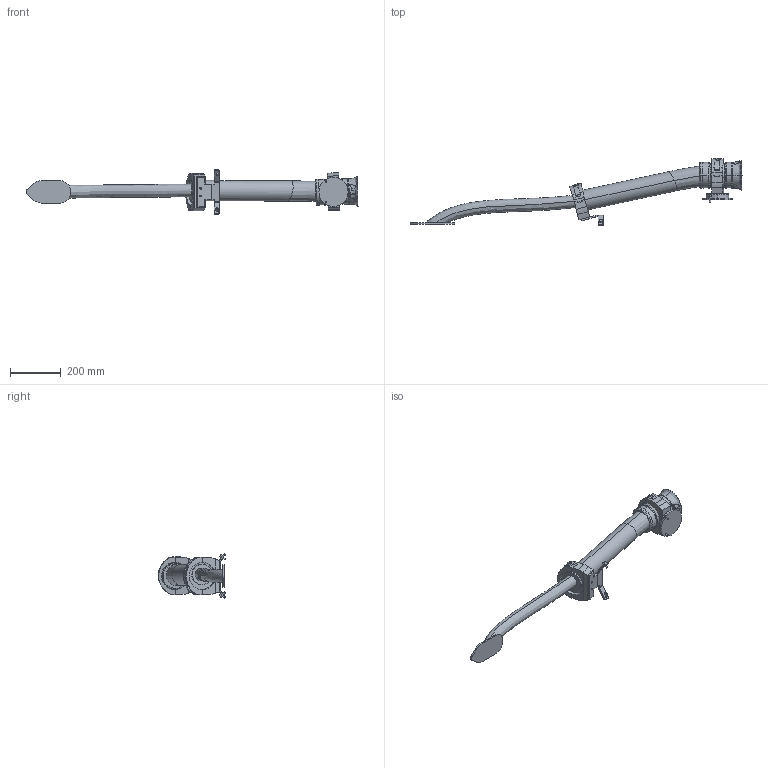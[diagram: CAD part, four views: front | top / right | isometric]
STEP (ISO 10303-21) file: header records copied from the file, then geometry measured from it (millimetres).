
FILE_DESCRIPTION (( 'STEP AP214' ), '1' );
FILE_NAME ('IRB6730-LID_190kg-310_OC_00_LINK04_CABLE.step', '2026-05-26T09:17:18', ( '' ), ( '' ), 'SwSTEP 2.0', 'SolidWorks 2024', '' );
FILE_SCHEMA (( 'AUTOMOTIVE_DESIGN' ));
Length unit declared in the file: millimetre
Products named in the file (1): IRB6730-LID_190kg-310_OC_00_LINK04_CABLE
Bounding box: 1309.61 x 265.02 x 174.65 mm (x, y, z)
Volume: 6087550.5 mm3; surface area: 463899.5 mm2
Topology: 1 solids, 1 shells, 424 faces, 1058 edges, 672 vertices
Faces by surface type: plane 222, cylinder 136, bspline 24, cone 22, torus 16, sphere 4
Entity records: 25261 total; most frequent: CARTESIAN_POINT 10610, ORIENTED_EDGE 2116, DIRECTION 2044, EDGE_CURVE 1058, AXIS2_PLACEMENT_3D 755, VERTEX_POINT 672, VECTOR 534, LINE 534
